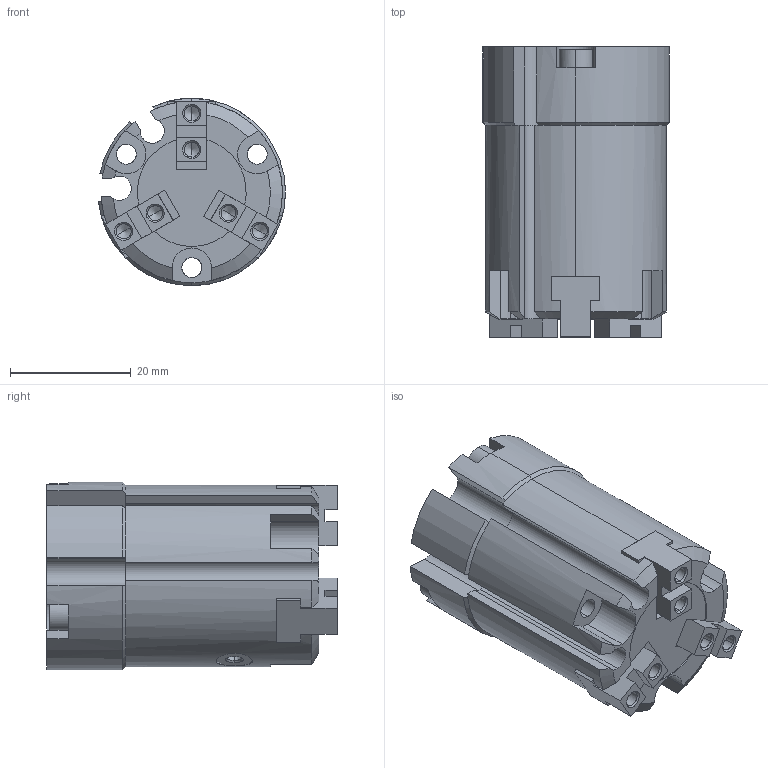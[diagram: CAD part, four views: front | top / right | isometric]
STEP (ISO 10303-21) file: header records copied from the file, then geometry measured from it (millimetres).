
FILE_DESCRIPTION (( 'STEP AP214' ), '1' );
FILE_NAME ('SHS3-16S-X84(5_0).STEP', '2024-12-23T10:34:36', ( '' ), ( '' ), 'SwSTEP 2.0', 'SolidWorks 2023', '' );
FILE_SCHEMA (( 'AUTOMOTIVE_DESIGN' ));
Length unit declared in the file: millimetre
Products named in the file (3): SHS3-16S-X84(5_0); SHS3-16S-X84(5_0)_FINGER; SHS3-16S-X84(5_0)_BODY
Assembly tree (4 placements, depth 2):
  SHS3-16S-X84(5_0)
    SHS3-16S-X84(5_0)_BODY
    SHS3-16S-X84(5_0)_FINGER  x3
Bounding box: 30.93 x 48 x 31 mm (x, y, z)
Volume: 28120.7 mm3; surface area: 10755.3 mm2
Topology: 4 solids, 4 shells, 265 faces, 689 edges, 436 vertices
Faces by surface type: plane 147, cylinder 68, cone 50
Entity records: 7562 total; most frequent: CARTESIAN_POINT 2448, ORIENTED_EDGE 1082, DIRECTION 971, EDGE_CURVE 541, VERTEX_POINT 352, VECTOR 347, LINE 347, AXIS2_PLACEMENT_3D 312
